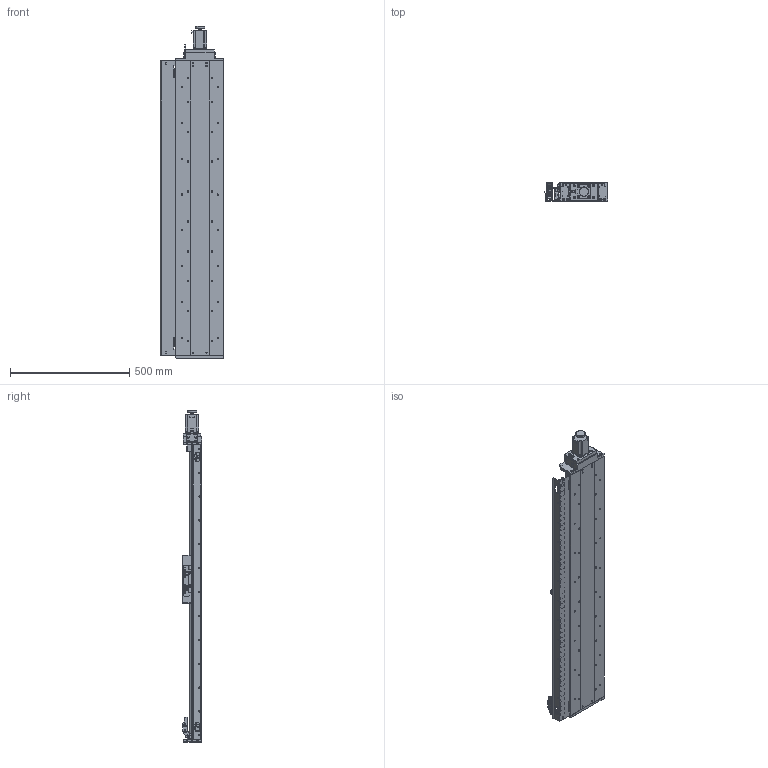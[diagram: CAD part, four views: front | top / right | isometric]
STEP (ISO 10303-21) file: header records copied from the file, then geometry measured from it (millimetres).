
FILE_DESCRIPTION (( 'STEP AP203' ), '1' );
FILE_NAME ('KA1000(AP203).STEP', '2024-01-29T02:17:41', ( 'Windows 蚚誧' ), ( 'Organization' ), 'SwSTEP 2.0', 'SolidWorks 2020', '' );
FILE_SCHEMA (( 'CONFIG_CONTROL_DESIGN' ));
Length unit declared in the file: millimetre
Products named in the file (1): KA1000(AP203)
Bounding box: 265.87 x 82 x 1390.5 mm (x, y, z)
Surface area: 1639051.4 mm2 (no closed solid volume)
Topology: 0 solids, 346 shells, 2542 faces, 12229 edges, 9794 vertices
Faces by surface type: plane 1403, cylinder 1018, torus 75, sphere 25, cone 20, bspline 1
Entity records: 128967 total; most frequent: CARTESIAN_POINT 29729, DIRECTION 21484, ORIENTED_EDGE 16438, EDGE_CURVE 12222, VERTEX_POINT 9794, VECTOR 7482, LINE 7482, AXIS2_PLACEMENT_3D 7001
